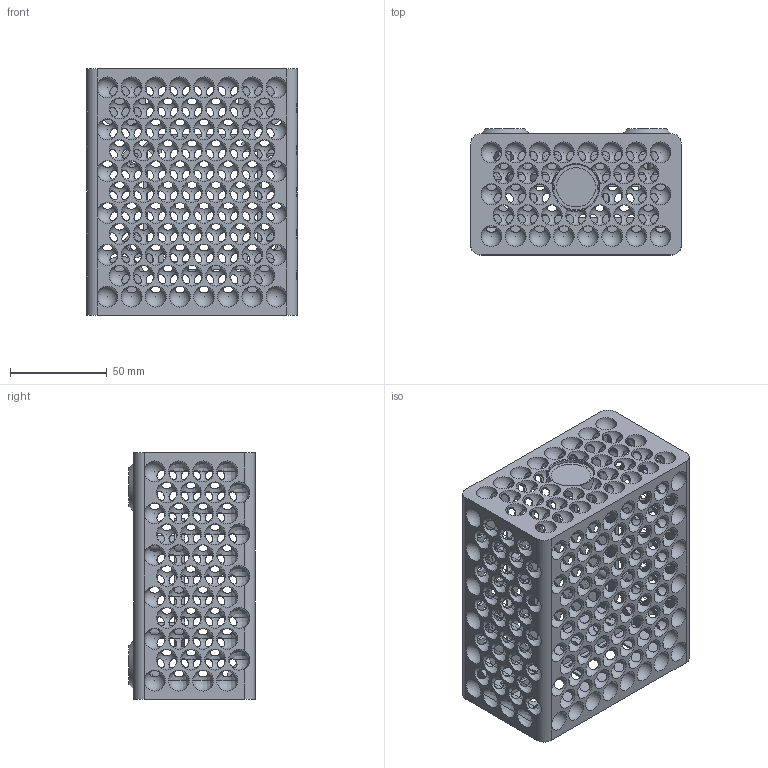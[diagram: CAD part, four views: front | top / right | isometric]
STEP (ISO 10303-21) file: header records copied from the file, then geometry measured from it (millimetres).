
FILE_DESCRIPTION(/* description */ (''),/* implementation_level */ '2;1');
FILE_NAME(/* name */ '/Users/cstahl/Downloads/Cheese case v64.step',/* time_stamp */ '2019-09-18T17:55:06+02:00',/* author */ (''),/* organization */ (''),/* preprocessor_version */ 'ST-DEVELOPER v18',/* originating_system */ 'Autodesk Translation Framework v8.6.0.1094',/* authorisation */ '');
FILE_SCHEMA (('AUTOMOTIVE_DESIGN { 1 0 10303 214 3 1 1 }'));
Length unit declared in the file: millimetre
Products named in the file (3): Cheese case; Case; holder v1
Assembly tree (2 placements, depth 2):
  Cheese case
    Case
    holder v1
Bounding box: 108.87 x 65.13 x 127.41 mm (x, y, z)
Volume: 141874 mm3; surface area: 131874.1 mm2
Topology: 3 solids, 3 shells, 1037 faces, 4587 edges, 3248 vertices
Faces by surface type: sphere 467, plane 244, cylinder 208, bspline 113, cone 5
Full cylindrical faces by diameter (mm): 3.2 x16, 4 x8, 6 x7, 8 x13, 13 x4, 23.5 x2
Entity records: 60447 total; most frequent: CARTESIAN_POINT 20221, ORIENTED_EDGE 8312, DIRECTION 8273, EDGE_CURVE 4156, AXIS2_PLACEMENT_3D 3692, VERTEX_POINT 3248, CIRCLE 2751, EDGE_LOOP 2668
